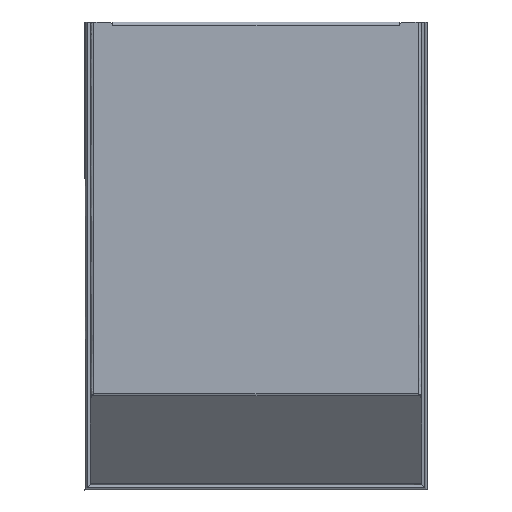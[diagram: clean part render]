
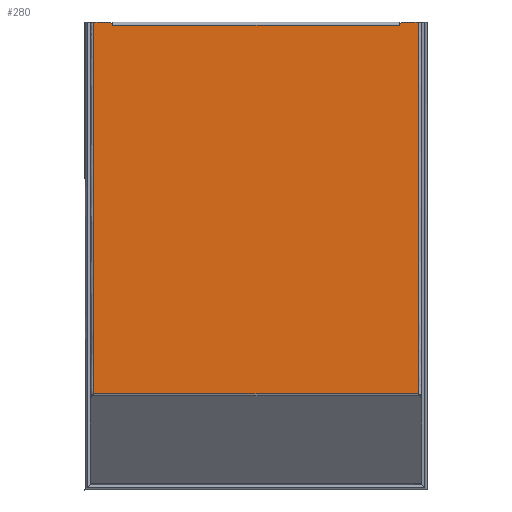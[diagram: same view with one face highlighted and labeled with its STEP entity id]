
A CAD part, front view. The second image highlights one B-rep face of the part: STEP entity #280.
In plain terms, the highlighted planar face has unit normal (0, -1, 0).
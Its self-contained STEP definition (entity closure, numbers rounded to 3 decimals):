
#280=ADVANCED_FACE('',(#819),#8189,.T.);
#819=FACE_OUTER_BOUND('',#1378,.T.);
#1378=EDGE_LOOP('',(#2655,#2656,#2657,#2658,#2659,#2660,#2661,#2662));
#2655=ORIENTED_EDGE('',*,*,#4928,.T.);
#2656=ORIENTED_EDGE('',*,*,#4935,.T.);
#2657=ORIENTED_EDGE('',*,*,#4929,.T.);
#2658=ORIENTED_EDGE('',*,*,#4930,.T.);
#2659=ORIENTED_EDGE('',*,*,#4931,.T.);
#2660=ORIENTED_EDGE('',*,*,#4932,.T.);
#2661=ORIENTED_EDGE('',*,*,#4933,.T.);
#2662=ORIENTED_EDGE('',*,*,#4942,.T.);
#4928=EDGE_CURVE('',#7573,#7574,#6114,.T.);
#4929=EDGE_CURVE('',#7575,#7576,#6115,.T.);
#4930=EDGE_CURVE('',#7576,#7577,#6116,.T.);
#4931=EDGE_CURVE('',#7577,#7578,#6117,.T.);
#4932=EDGE_CURVE('',#7578,#7579,#6118,.T.);
#4933=EDGE_CURVE('',#7579,#7580,#6119,.T.);
#4935=EDGE_CURVE('',#7574,#7575,#6121,.T.);
#4942=EDGE_CURVE('',#7580,#7573,#6126,.T.);
#6114=B_SPLINE_CURVE_WITH_KNOTS('',1,(#13997,#13998),.UNSPECIFIED.,.F.,.F.,
(2,2),(0.,152.),.UNSPECIFIED.);
#6115=B_SPLINE_CURVE_WITH_KNOTS('',1,(#13999,#14000),.UNSPECIFIED.,.F.,.F.,
(2,2),(0.,8.961),.UNSPECIFIED.);
#6116=B_SPLINE_CURVE_WITH_KNOTS('',1,(#14001,#14002),.UNSPECIFIED.,.F.,.F.,
(2,2),(0.,197.175),.UNSPECIFIED.);
#6117=B_SPLINE_CURVE_WITH_KNOTS('',1,(#14003,#14004),.UNSPECIFIED.,.F.,.F.,
(2,2),(0.,172.),.UNSPECIFIED.);
#6118=B_SPLINE_CURVE_WITH_KNOTS('',1,(#14005,#14006),.UNSPECIFIED.,.F.,.F.,
(2,2),(0.,197.175),.UNSPECIFIED.);
#6119=B_SPLINE_CURVE_WITH_KNOTS('',1,(#14007,#14008),.UNSPECIFIED.,.F.,.F.,
(2,2),(0.,8.961),.UNSPECIFIED.);
#6121=B_SPLINE_CURVE_WITH_KNOTS('',1,(#14011,#14012),.UNSPECIFIED.,.F.,.F.,
(2,2),(0.,2.078),.UNSPECIFIED.);
#6126=B_SPLINE_CURVE_WITH_KNOTS('',1,(#14027,#14028),.UNSPECIFIED.,.F.,.F.,
(2,2),(0.,2.078),.UNSPECIFIED.);
#7573=VERTEX_POINT('',#13863);
#7574=VERTEX_POINT('',#13864);
#7575=VERTEX_POINT('',#13865);
#7576=VERTEX_POINT('',#13866);
#7577=VERTEX_POINT('',#13867);
#7578=VERTEX_POINT('',#13868);
#7579=VERTEX_POINT('',#13869);
#7580=VERTEX_POINT('',#13870);
#8189=PLANE('',#8804);
#8804=AXIS2_PLACEMENT_3D('',#13164,#9015,$);
#9015=DIRECTION('',(0.,-1.,0.));
#13164=CARTESIAN_POINT('',(-103.201,-55.,19.719));
#13863=CARTESIAN_POINT('',(76.,-55.,-1.8));
#13864=CARTESIAN_POINT('',(-76.,-55.,-1.8));
#13865=CARTESIAN_POINT('',(-77.039,-55.,0.));
#13866=CARTESIAN_POINT('',(-86.,-55.,0.));
#13867=CARTESIAN_POINT('',(-86.,-55.,-197.175));
#13868=CARTESIAN_POINT('',(86.,-55.,-197.175));
#13869=CARTESIAN_POINT('',(86.,-55.,0.));
#13870=CARTESIAN_POINT('',(77.039,-55.,0.));
#13997=CARTESIAN_POINT('',(76.,-55.,-1.8));
#13998=CARTESIAN_POINT('',(-76.,-55.,-1.8));
#13999=CARTESIAN_POINT('',(-77.039,-55.,0.));
#14000=CARTESIAN_POINT('',(-86.,-55.,0.));
#14001=CARTESIAN_POINT('',(-86.,-55.,0.));
#14002=CARTESIAN_POINT('',(-86.,-55.,-197.175));
#14003=CARTESIAN_POINT('',(-86.,-55.,-197.175));
#14004=CARTESIAN_POINT('',(86.,-55.,-197.175));
#14005=CARTESIAN_POINT('',(86.,-55.,-197.175));
#14006=CARTESIAN_POINT('',(86.,-55.,0.));
#14007=CARTESIAN_POINT('',(86.,-55.,0.));
#14008=CARTESIAN_POINT('',(77.039,-55.,0.));
#14011=CARTESIAN_POINT('',(-76.,-55.,-1.8));
#14012=CARTESIAN_POINT('',(-77.039,-55.,0.));
#14027=CARTESIAN_POINT('',(77.039,-55.,0.));
#14028=CARTESIAN_POINT('',(76.,-55.,-1.8));
